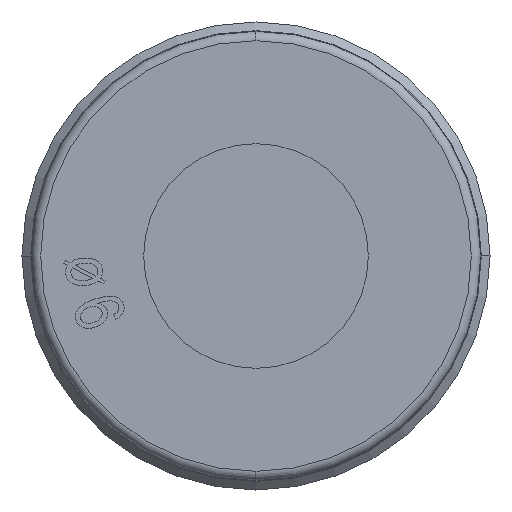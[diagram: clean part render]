
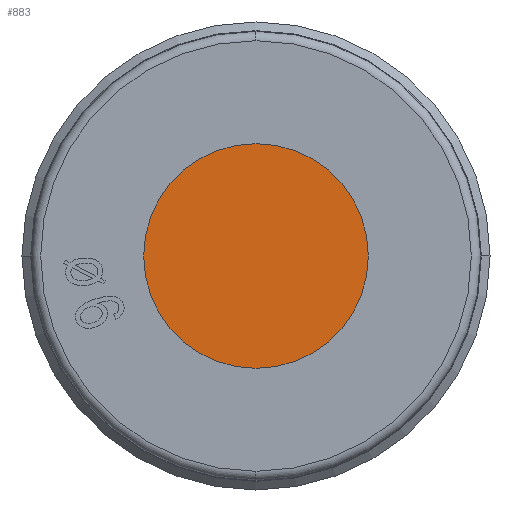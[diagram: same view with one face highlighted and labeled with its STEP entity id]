
A CAD part, front view. The second image highlights one B-rep face of the part: STEP entity #883.
In plain terms, the highlighted planar face has unit normal (0, -1, 0).
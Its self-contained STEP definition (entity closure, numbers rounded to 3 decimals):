
#834 = PLANE ( 'NONE',  #2434 ) ;
#883 = ADVANCED_FACE ( 'NONE', ( #6640 ), #834, .T. ) ;
#977 = VERTEX_POINT ( 'NONE', #2398 ) ;
#1027 = CARTESIAN_POINT ( 'NONE',  ( 0., 11.3, 0. ) ) ;
#1576 = DIRECTION ( 'NONE',  ( 1., 0., 0. ) ) ;
#1904 = DIRECTION ( 'NONE',  ( 0., -1., 0. ) ) ;
#2038 = ORIENTED_EDGE ( 'NONE', *, *, #4190, .T. ) ;
#2387 = DIRECTION ( 'NONE',  ( 0., -1., 0. ) ) ;
#2398 = CARTESIAN_POINT ( 'NONE',  ( -3., 11.3, 0. ) ) ;
#2434 = AXIS2_PLACEMENT_3D ( 'NONE', #5874, #2387, #2583 ) ;
#2583 = DIRECTION ( 'NONE',  ( 1., 0., 0. ) ) ;
#2706 = ORIENTED_EDGE ( 'NONE', *, *, #5843, .T. ) ;
#4190 = EDGE_CURVE ( 'NONE', #5330, #977, #5052, .T. ) ;
#4350 = AXIS2_PLACEMENT_3D ( 'NONE', #1027, #4676, #1576 ) ;
#4481 = CARTESIAN_POINT ( 'NONE',  ( 3., 11.3, 0. ) ) ;
#4676 = DIRECTION ( 'NONE',  ( 0., -1., 0. ) ) ;
#4848 = CIRCLE ( 'NONE', #4350, 3. ) ;
#5001 = CARTESIAN_POINT ( 'NONE',  ( 0., 11.3, 0. ) ) ;
#5052 = CIRCLE ( 'NONE', #5237, 3. ) ;
#5237 = AXIS2_PLACEMENT_3D ( 'NONE', #5001, #1904, #5533 ) ;
#5330 = VERTEX_POINT ( 'NONE', #4481 ) ;
#5533 = DIRECTION ( 'NONE',  ( 1., 0., 0. ) ) ;
#5843 = EDGE_CURVE ( 'NONE', #977, #5330, #4848, .T. ) ;
#5874 = CARTESIAN_POINT ( 'NONE',  ( 0., 11.3, 0. ) ) ;
#6460 = EDGE_LOOP ( 'NONE', ( #2038, #2706 ) ) ;
#6640 = FACE_OUTER_BOUND ( 'NONE', #6460, .T. ) ;
